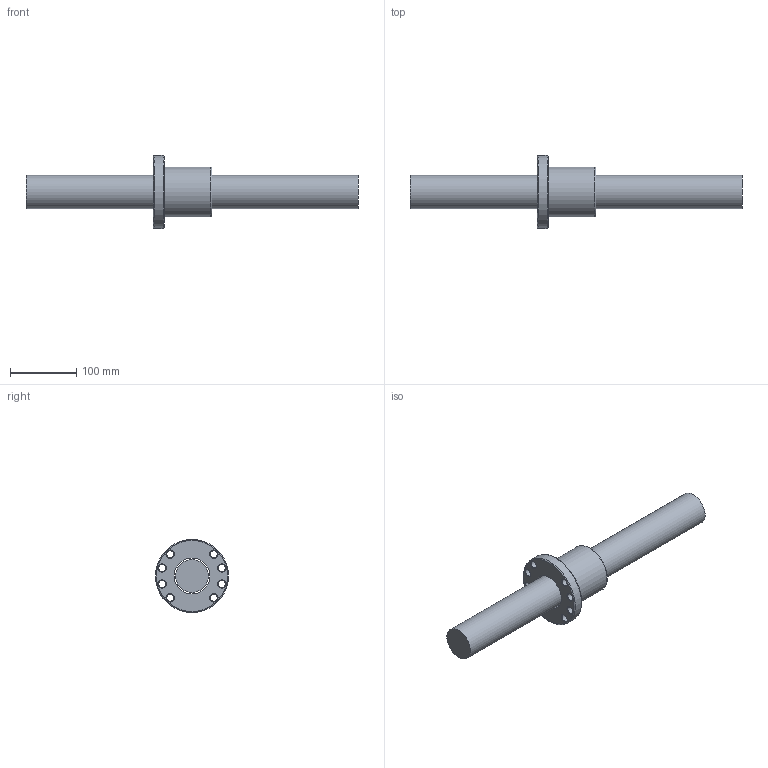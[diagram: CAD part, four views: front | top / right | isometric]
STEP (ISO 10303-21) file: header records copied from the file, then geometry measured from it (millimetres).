
FILE_DESCRIPTION (( 'STEP AP203' ), '1' );
FILE_NAME ('SFNU05010N-4.step', '2024-05-10T07:00:53', ( '' ), ( '' ), 'SwSTEP 2.0', 'SolidWorks 2022', '' );
FILE_SCHEMA (( 'CONFIG_CONTROL_DESIGN' ));
Length unit declared in the file: millimetre
Products named in the file (1): SFNU05010N-4
Bounding box: 500 x 110 x 110 mm (x, y, z)
Volume: 1236202.2 mm3; surface area: 136863.6 mm2
Topology: 2 solids, 2 shells, 51 faces, 127 edges, 81 vertices
Faces by surface type: cylinder 20, cone 17, plane 6, bspline 5, torus 3
Full cylindrical faces by diameter (mm): 4 x1, 7 x6, 11 x8, 50 x1, 54.1 x1, 75 x1, 110 x1
Entity records: 2909 total; most frequent: CARTESIAN_POINT 1988, DIRECTION 176, ORIENTED_EDGE 118, EDGE_LOOP 100, AXIS2_PLACEMENT_3D 86, FACE_OUTER_BOUND 62, EDGE_CURVE 59, VERTEX_POINT 55
